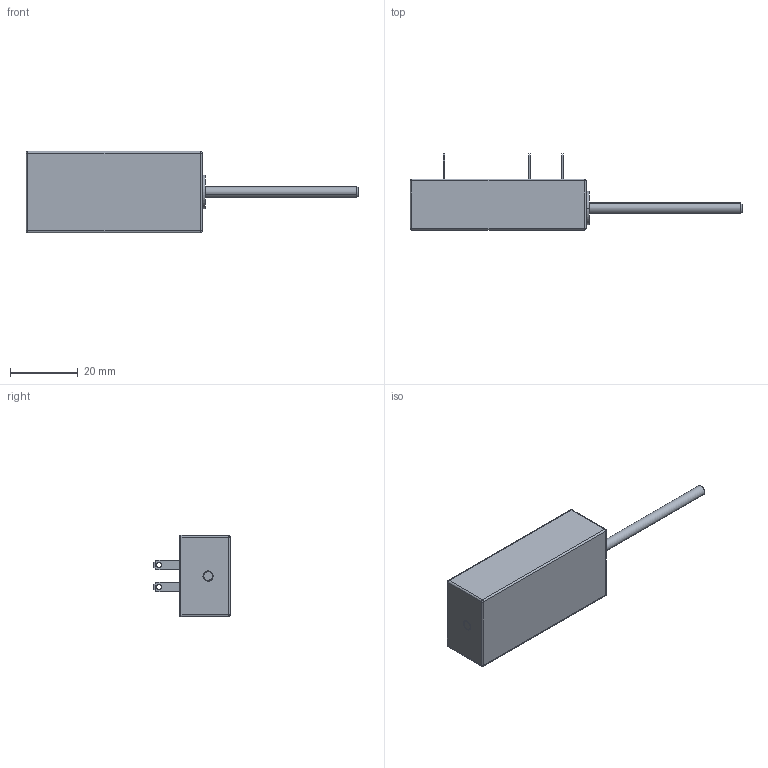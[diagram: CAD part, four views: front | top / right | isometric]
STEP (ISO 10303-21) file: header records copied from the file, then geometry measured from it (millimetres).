
FILE_DESCRIPTION (( 'STEP AP214' ), '1' );
FILE_NAME ('15FLP30A.STEP', '2017-02-03T05:35:55', ( '' ), ( '' ), 'SwSTEP 2.0', 'SolidWorks 2016', '' );
FILE_SCHEMA (( 'AUTOMOTIVE_DESIGN' ));
Length unit declared in the file: millimetre
Products named in the file (2): Part8^15FLP30A; 15FLP30A
Assembly tree (1 placements, depth 2):
  15FLP30A
    Part8^15FLP30A
Bounding box: 98.05 x 22.5 x 24 mm (x, y, z)
Volume: 13282.2 mm3; surface area: 9733.4 mm2
Topology: 2 solids, 6 shells, 3280 faces, 8728 edges, 4666 vertices
Faces by surface type: bspline 2880, plane 243, cylinder 113, cone 30, sphere 8, torus 6
Entity records: 283741 total; most frequent: CARTESIAN_POINT 233707, ORIENTED_EDGE 17432, EDGE_CURVE 8716, VERTEX_POINT 4666, EDGE_LOOP 4048, FACE_OUTER_BOUND 3280, ADVANCED_FACE 3280, DIRECTION 2489
